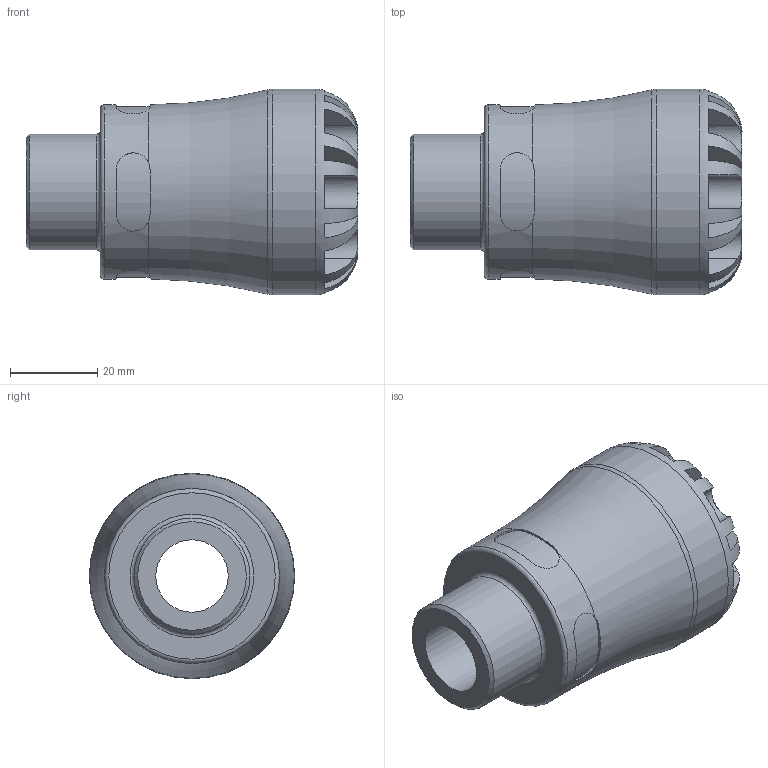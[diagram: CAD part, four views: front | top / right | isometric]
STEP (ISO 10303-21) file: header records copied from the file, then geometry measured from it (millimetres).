
FILE_DESCRIPTION(/* description */ ('PLASSON MALE ADAPTOR 3/4''''CTS x 3/4''''NPT SERIES 1'),/* implementation_level */ '2;1');
FILE_NAME(/* name */ 'C:\Dropbox\KIMPROJECTS-Inventor 2019\99-16-3568-Processing Inch\ASTM S1 2021\1002Z\1002Z0007007.stp',/* time_stamp */ '2021-09-02T14:36:52+03:00',/* author */ ('KIM'),/* organization */ (''),/* preprocessor_version */ 'ST-DEVELOPER v17.2',/* originating_system */ 'Autodesk Inventor 2019',/* authorisation */ '');
FILE_SCHEMA (('AUTOMOTIVE_DESIGN { 1 0 10303 214 3 1 1 }'));
Length unit declared in the file: inch
Products named in the file (1): 1002Z0007007
Bounding box: 75.95 x 46.99 x 46.99 mm (x, y, z)
Volume: 65940.6 mm3; surface area: 17848.1 mm2
Topology: 1 solids, 1 shells, 100 faces, 273 edges, 177 vertices
Faces by surface type: plane 60, cylinder 33, torus 5, cone 2
Full cylindrical faces by diameter (mm): 16.575 x1, 22.1 x1, 26.441 x1, 39.941 x1, 46.99 x1
Entity records: 4157 total; most frequent: CARTESIAN_POINT 1539, ORIENTED_EDGE 546, DIRECTION 517, EDGE_CURVE 273, AXIS2_PLACEMENT_3D 215, VERTEX_POINT 177, CIRCLE 114, EDGE_LOOP 104
